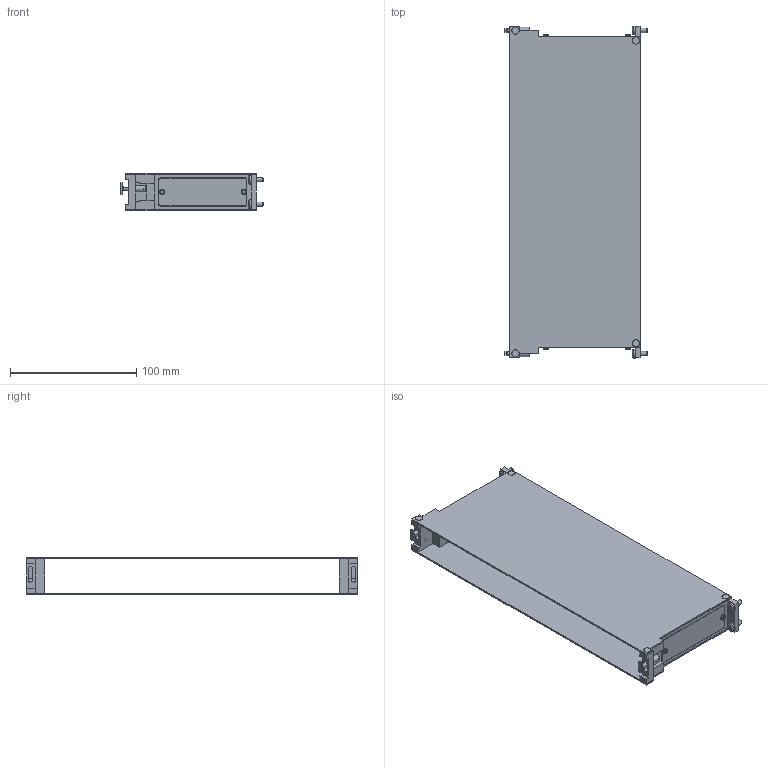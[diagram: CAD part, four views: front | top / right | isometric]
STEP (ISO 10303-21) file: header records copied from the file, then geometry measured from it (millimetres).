
FILE_DESCRIPTION((''),'2;1');
FILE_NAME('C:\old_Drawings\shrinkwrapped website .stp files\12108-04-STP.stp','2012-01-12T11:07:16',('GaryRobinson'),(''),'Autodesk Inventor 2011','Autodesk Inventor 2011','');
FILE_SCHEMA(('AUTOMOTIVE_DESIGN { 1 0 10303 214 1 1 1 1 }'));
Length unit declared in the file: inch
Products named in the file (1): 12108-04-STP
Bounding box: 112.81 x 262.72 x 29.97 mm (x, y, z)
Surface area: 124895.7 mm2 (no closed solid volume)
Topology: 0 solids, 36 shells, 170 faces, 570 edges, 426 vertices
Faces by surface type: plane 114, cylinder 30, cone 16, torus 10
Full cylindrical faces by diameter (mm): 2.159 x2, 2.794 x2, 3.505 x4, 4.191 x4, 4.763 x2, 6.858 x4
Entity records: 6492 total; most frequent: CARTESIAN_POINT 1383, DIRECTION 974, ORIENTED_EDGE 826, EDGE_CURVE 518, VERTEX_POINT 418, AXIS2_PLACEMENT_3D 337, VECTOR 300, LINE 300
